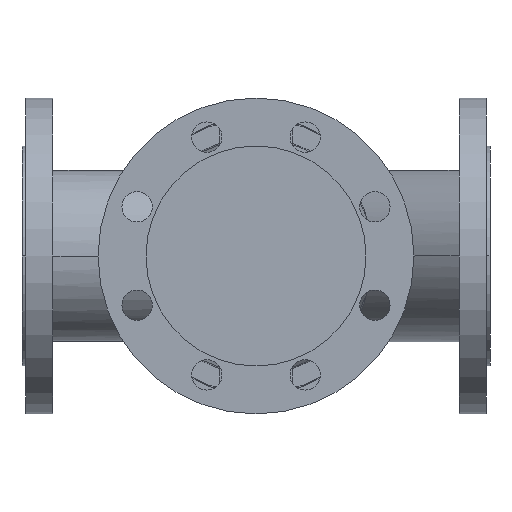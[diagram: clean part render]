
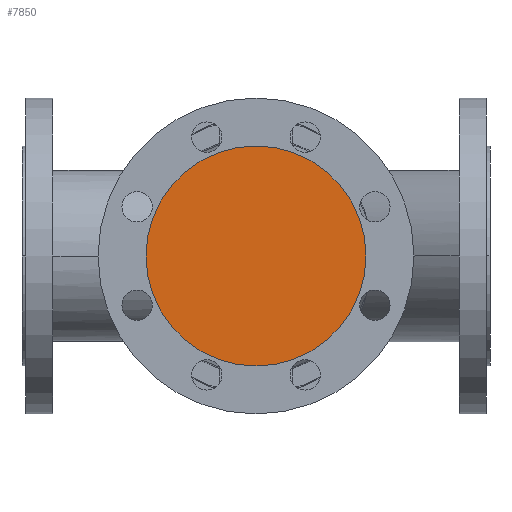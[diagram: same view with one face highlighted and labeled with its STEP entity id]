
A CAD part, front view. The second image highlights one B-rep face of the part: STEP entity #7850.
In plain terms, the highlighted planar face has unit normal (0, -1, 0).
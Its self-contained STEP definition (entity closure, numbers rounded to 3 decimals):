
#6940=CARTESIAN_POINT('',(106.,-200.,0.));
#6950=VERTEX_POINT('',#6940);
#6980=CARTESIAN_POINT('',(200.,-200.,0.));
#6990=DIRECTION('',(0.,1.,0.));
#7000=DIRECTION('',(1.,0.,0.));
#7010=AXIS2_PLACEMENT_3D('',#6980,#6990,#7000);
#7020=CIRCLE('',#7010,94.);
#7030=CARTESIAN_POINT('',(294.,-200.,0.));
#7040=VERTEX_POINT('',#7030);
#7050=EDGE_CURVE('',#7040,#6950,#7020,.T.);
#7750=CARTESIAN_POINT('',(247.,-200.,0.));
#7760=DIRECTION('',(0.,-1.,0.));
#7770=DIRECTION('',(-1.,0.,0.));
#7780=AXIS2_PLACEMENT_3D('',#7750,#7760,#7770);
#7790=PLANE('',#7780);
#7800=ORIENTED_EDGE('',*,*,#7050,.F.);
#7810=EDGE_CURVE('',#6950,#7040,#7020,.T.);
#7820=ORIENTED_EDGE('',*,*,#7810,.F.);
#7830=EDGE_LOOP('',(#7820,#7800));
#7840=FACE_OUTER_BOUND('',#7830,.T.);
#7850=ADVANCED_FACE('',(#7840),#7790,.T.);
